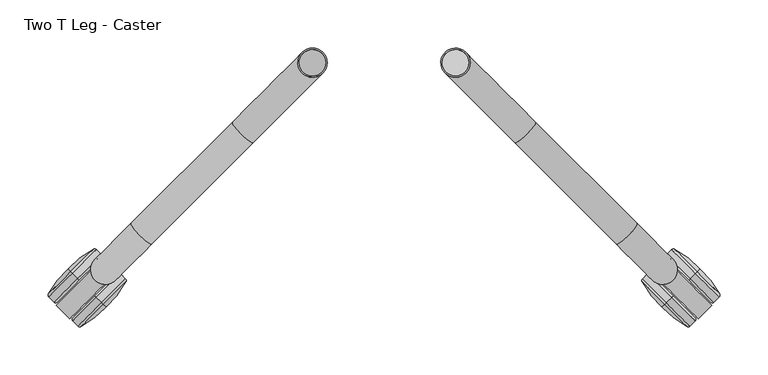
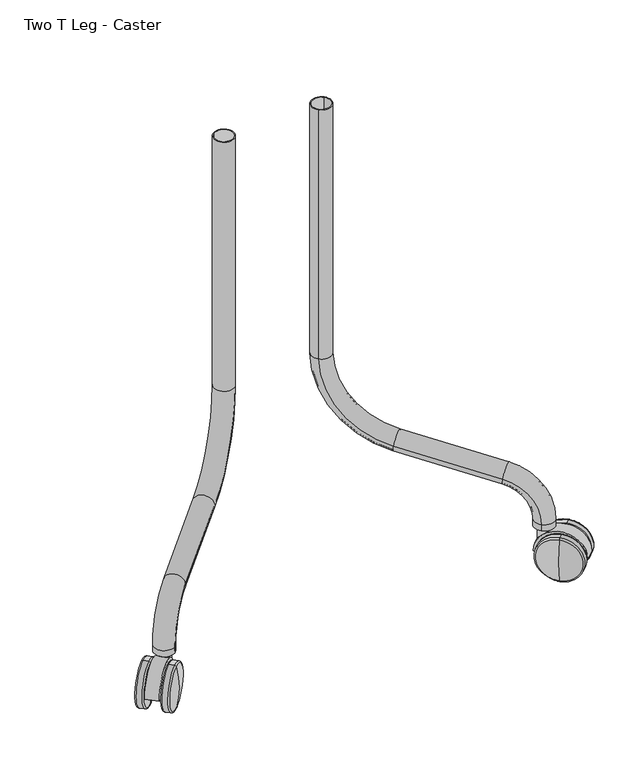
"""IFC4 building model written with IfcOpenShell, lengths in millimetres: furniture geometry, Steelcase - Groupwork - Table Leg - Two T : Two T Leg - Caster."""

from ifc_helpers import new_model, si_unit, point, frame, frame_2d, origin, place, context, project, spatial, polyline, circle_curve, ellipse_curve, trimmed, segment, composite_curve, outline, extrude, source, transform, mapped, element, save
from ifc_brep_helpers import plane_surface, cylinder_surface, revolved_surface, advanced_brep


def two_t_leg_caster_d90350da(model_context):
    return source(origin(), model_context, "Body", "SolidModel", [
        advanced_brep(
        [(715.6370027, -253.0571971, 2.2405885), (715.6370027, -253.0571971, 67.7519755), (715.6370027, -253.0571971, 34.996282), (714.1051669, -254.5890328, 0.0742455), (714.1051669, -254.5890328, 69.9183184), (708.5517446, -260.1424552, 0.0742455), (708.5517446, -260.1424552, 69.9183184), (706.7596961, -261.9345037, 1.9932216), (706.7596961, -261.9345037, 67.9993423), (703.9380457, -264.7561541, 34.996282)],
        [
            (0, 1, circle_curve(frame((715.6370027, -253.0571971, 34.996282), z_axis=(0.707106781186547, 0.7071067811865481, 0.0), x_axis=(0.0, 0.0, 1.0000000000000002)), 32.7556935)),
            (1, 2),
            (2, 0),
            (1, 0, circle_curve(frame((715.6370027, -253.0571971, 34.996282), z_axis=(0.707106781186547, 0.7071067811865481, 0.0), x_axis=(0.0, 0.0, 1.0000000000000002)), 32.7556935)),
            (3, 4, circle_curve(frame((714.1051669, -254.5890328, 34.996282), z_axis=(0.707106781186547, 0.7071067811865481, 0.0), x_axis=(0.0, 0.0, 1.0000000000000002)), 34.9220364)),
            (4, 1, circle_curve(frame((714.1051669, -254.5890328, 67.7519755), z_axis=(-0.7071067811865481, 0.707106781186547, 0.0), x_axis=(0.0, 0.0, 1.0000000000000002)), 2.1663429)),
            (0, 3, circle_curve(frame((714.1051669, -254.5890328, 2.2405885), z_axis=(-0.7071067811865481, 0.707106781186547, 0.0), x_axis=(0.0, 0.0, -1.0000000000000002)), 2.1663429)),
            (4, 3, circle_curve(frame((714.1051669, -254.5890328, 34.996282), z_axis=(0.707106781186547, 0.7071067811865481, 0.0), x_axis=(0.0, 0.0, 1.0000000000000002)), 34.9220364)),
            (5, 6, circle_curve(frame((708.5517446, -260.1424552, 34.996282), z_axis=(0.707106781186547, 0.7071067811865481, 0.0), x_axis=(0.0, 0.0, 1.0000000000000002)), 34.9220364)),
            (6, 4),
            (3, 5),
            (6, 5, circle_curve(frame((708.5517446, -260.1424552, 34.996282), z_axis=(0.707106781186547, 0.7071067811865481, 0.0), x_axis=(0.0, 0.0, 1.0000000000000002)), 34.9220364)),
            (7, 8, circle_curve(frame((706.7596961, -261.9345037, 34.996282), z_axis=(0.707106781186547, 0.7071067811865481, 0.0), x_axis=(0.0, 0.0, 1.0000000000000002)), 33.0030604)),
            (8, 6, circle_curve(frame((708.5517446, -260.1424552, 67.285314), z_axis=(-0.7071067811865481, 0.707106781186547, 0.0), x_axis=(0.0, 0.0, 1.0000000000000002)), 2.6330044)),
            (5, 7, circle_curve(frame((708.5517446, -260.1424552, 2.7072499), z_axis=(-0.7071067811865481, 0.707106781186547, 0.0), x_axis=(0.0, 0.0, -1.0000000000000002)), 2.6330044)),
            (8, 7, circle_curve(frame((706.7596961, -261.9345037, 34.996282), z_axis=(0.707106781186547, 0.7071067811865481, 0.0), x_axis=(0.0, 0.0, 1.0000000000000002)), 33.0030604)),
            (9, 8, circle_curve(frame((780.3707173, -188.3234824, 38.6695822), z_axis=(-0.7071067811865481, 0.707106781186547, 0.0), x_axis=(0.0, 0.0, 1.0000000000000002)), 108.1545178)),
            (7, 9, circle_curve(frame((780.3707173, -188.3234824, 31.3229818), z_axis=(-0.7071067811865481, 0.707106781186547, 0.0), x_axis=(0.0, 0.0, -1.0000000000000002)), 108.1545178)),
        ],
        [
            plane_surface(frame((715.6370027, -253.0571971, 34.996282), z_axis=(0.707106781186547, 0.7071067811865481, 0.0), x_axis=(0.0, 0.0, 1.0))),
            revolved_surface(trimmed(ellipse_curve(frame((714.1051669, -254.5890328, 67.7519755), z_axis=(0.7071067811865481, -0.707106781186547, 0.0), x_axis=(0.0, 0.0, 1.0000000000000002)), 2.1663429, 2.1663429), [point((715.6370027, -253.0571971, 67.7519755))], [point((714.1051669, -254.5890328, 69.9183184))], True, "CARTESIAN"), (705.1765702, -263.5176296, 34.996282), (-0.707106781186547, -0.7071067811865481, 0.0)),
            cylinder_surface(frame((705.1765702, -263.5176296, 34.996282), z_axis=(-0.707106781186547, -0.7071067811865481, 0.0), x_axis=(0.0, 0.0, 1.0000000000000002)), 34.9220364),
            revolved_surface(trimmed(ellipse_curve(frame((708.5517446, -260.1424552, 67.285314), z_axis=(0.7071067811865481, -0.707106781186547, 0.0), x_axis=(0.0, 0.0, 1.0000000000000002)), 2.6330044, 2.6330044), [point((708.5517446, -260.1424552, 69.9183184))], [point((706.7596961, -261.9345037, 67.9993423))], True, "CARTESIAN"), (705.1765702, -263.5176296, 34.996282), (-0.707106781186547, -0.7071067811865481, 0.0)),
            revolved_surface(trimmed(ellipse_curve(frame((780.3707173, -188.3234824, 38.6695822), z_axis=(0.7071067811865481, -0.707106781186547, 0.0), x_axis=(0.0, 0.0, 1.0000000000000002)), 108.1545178, 108.1545178), [point((706.7596961, -261.9345037, 67.9993423))], [point((703.9380457, -264.7561541, 34.996282))], True, "CARTESIAN"), (705.1765702, -263.5176296, 34.996282), (-0.707106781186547, -0.7071067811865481, 0.0)),
        ],
        [
            (0, [[1, 2, 3]]),
            (0, [[4, -3, -2]]),
            (1, [[5, 6, -1, 7]]),
            (1, [[8, -7, -4, -6]]),
            (2, [[9, 10, -5, 11]]),
            (2, [[12, -11, -8, -10]]),
            (3, [[13, 14, -9, 15]]),
            (3, [[16, -15, -12, -14]]),
            (4, [[17, -13, 18]]),
            (4, [[-18, -16, -17]]),
        ],
    ),
        advanced_brep(
        [(740.7533282, -227.9408716, 1.9932216), (740.7533282, -227.9408716, 67.9993423), (743.5749786, -225.1192212, 34.996282), (738.9612797, -229.7329201, 0.0742455), (738.9612797, -229.7329201, 69.9183184), (733.4078574, -235.2863424, 0.0742455), (733.4078574, -235.2863424, 69.9183184), (731.8760216, -236.8181782, 2.2405885), (731.8760216, -236.8181782, 67.7519755), (731.8760216, -236.8181782, 34.996282)],
        [
            (0, 1, circle_curve(frame((740.7533282, -227.9408716, 34.996282), z_axis=(0.707106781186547, 0.7071067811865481, 0.0), x_axis=(0.0, 0.0, 1.0000000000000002)), 33.0030604)),
            (1, 2, circle_curve(frame((667.142307, -301.5518928, 38.6695822), z_axis=(-0.7071067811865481, 0.707106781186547, 0.0), x_axis=(0.0, 0.0, 1.0000000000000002)), 108.1545178)),
            (2, 0, circle_curve(frame((667.142307, -301.5518928, 31.3229818), z_axis=(-0.7071067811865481, 0.707106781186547, 0.0), x_axis=(0.0, 0.0, -1.0000000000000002)), 108.1545178)),
            (1, 0, circle_curve(frame((740.7533282, -227.9408716, 34.996282), z_axis=(0.707106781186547, 0.7071067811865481, 0.0), x_axis=(0.0, 0.0, 1.0000000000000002)), 33.0030604)),
            (3, 4, circle_curve(frame((738.9612797, -229.7329201, 34.996282), z_axis=(0.707106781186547, 0.7071067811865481, 0.0), x_axis=(0.0, 0.0, 1.0000000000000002)), 34.9220364)),
            (4, 1, circle_curve(frame((738.9612797, -229.7329201, 67.285314), z_axis=(-0.7071067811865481, 0.707106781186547, 0.0), x_axis=(0.0, 0.0, 1.0000000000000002)), 2.6330044)),
            (0, 3, circle_curve(frame((738.9612797, -229.7329201, 2.7072499), z_axis=(-0.7071067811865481, 0.707106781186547, 0.0), x_axis=(0.0, 0.0, -1.0000000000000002)), 2.6330044)),
            (4, 3, circle_curve(frame((738.9612797, -229.7329201, 34.996282), z_axis=(0.707106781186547, 0.7071067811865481, 0.0), x_axis=(0.0, 0.0, 1.0000000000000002)), 34.9220364)),
            (5, 6, circle_curve(frame((733.4078574, -235.2863424, 34.996282), z_axis=(0.707106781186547, 0.7071067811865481, 0.0), x_axis=(0.0, 0.0, 1.0000000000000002)), 34.9220364)),
            (6, 4),
            (3, 5),
            (6, 5, circle_curve(frame((733.4078574, -235.2863424, 34.996282), z_axis=(0.707106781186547, 0.7071067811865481, 0.0), x_axis=(0.0, 0.0, 1.0000000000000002)), 34.9220364)),
            (7, 8, circle_curve(frame((731.8760216, -236.8181782, 34.996282), z_axis=(0.707106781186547, 0.7071067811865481, 0.0), x_axis=(0.0, 0.0, 1.0000000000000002)), 32.7556935)),
            (8, 6, circle_curve(frame((733.4078574, -235.2863424, 67.7519755), z_axis=(-0.7071067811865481, 0.707106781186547, 0.0), x_axis=(0.0, 0.0, 1.0000000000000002)), 2.1663429)),
            (5, 7, circle_curve(frame((733.4078574, -235.2863424, 2.2405885), z_axis=(-0.7071067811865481, 0.707106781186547, 0.0), x_axis=(0.0, 0.0, -1.0000000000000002)), 2.1663429)),
            (8, 7, circle_curve(frame((731.8760216, -236.8181782, 34.996282), z_axis=(0.707106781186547, 0.7071067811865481, 0.0), x_axis=(0.0, 0.0, 1.0000000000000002)), 32.7556935)),
            (9, 8),
            (7, 9),
        ],
        [
            revolved_surface(trimmed(ellipse_curve(frame((667.142307, -301.5518928, 38.6695822), z_axis=(0.7071067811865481, -0.707106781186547, 0.0), x_axis=(0.0, 0.0, 1.0000000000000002)), 108.1545178, 108.1545178), [point((743.5749786, -225.1192212, 34.996282))], [point((740.7533282, -227.9408716, 67.9993423))], True, "CARTESIAN"), (705.1765702, -263.5176296, 34.996282), (-0.707106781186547, -0.7071067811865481, 0.0)),
            revolved_surface(trimmed(ellipse_curve(frame((738.9612797, -229.7329201, 67.285314), z_axis=(0.7071067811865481, -0.707106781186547, 0.0), x_axis=(0.0, 0.0, 1.0000000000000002)), 2.6330044, 2.6330044), [point((740.7533282, -227.9408716, 67.9993423))], [point((738.9612797, -229.7329201, 69.9183184))], True, "CARTESIAN"), (705.1765702, -263.5176296, 34.996282), (-0.707106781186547, -0.7071067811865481, 0.0)),
            cylinder_surface(frame((705.1765702, -263.5176296, 34.996282), z_axis=(-0.707106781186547, -0.7071067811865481, 0.0), x_axis=(0.0, 0.0, 1.0000000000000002)), 34.9220364),
            revolved_surface(trimmed(ellipse_curve(frame((733.4078574, -235.2863424, 67.7519755), z_axis=(0.7071067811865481, -0.707106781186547, 0.0), x_axis=(0.0, 0.0, 1.0000000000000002)), 2.1663429, 2.1663429), [point((733.4078574, -235.2863424, 69.9183184))], [point((731.8760216, -236.8181782, 67.7519755))], True, "CARTESIAN"), (705.1765702, -263.5176296, 34.996282), (-0.707106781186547, -0.7071067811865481, 0.0)),
            plane_surface(frame((731.8760216, -236.8181782, 34.996282), z_axis=(-0.707106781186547, -0.7071067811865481, 0.0), x_axis=(0.0, 0.0, 1.0))),
        ],
        [
            (0, [[1, 2, 3]]),
            (0, [[4, -3, -2]]),
            (1, [[5, 6, -1, 7]]),
            (1, [[8, -7, -4, -6]]),
            (2, [[9, 10, -5, 11]]),
            (2, [[12, -11, -8, -10]]),
            (3, [[13, 14, -9, 15]]),
            (3, [[16, -15, -12, -14]]),
            (4, [[17, -13, 18]]),
            (4, [[-18, -16, -17]]),
        ],
    ),
        extrude(outline(composite_curve([segment(trimmed(circle_curve(frame_2d((0.0, -37.5031)), 37.5031), [point((0.0, 0.0))], [point((0.0, -75.0062))], False, "CARTESIAN"), True, "CONTINUOUS"), segment(polyline([(0.0, -75.0062), (0.0, 0.0)]), True, "CONTINUOUS")], self_intersect=False)), frame((741.9150287, -277.0308459, 33.5852125), z_axis=(0.7071067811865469, 0.7071067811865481, 0.0), x_axis=(0.0, 0.0, 1.0)), (0.0, 0.0, 1.0), 19.685),
        advanced_brep(
        [(712.3538213, -233.5349968, 93.5546125), (698.428117, -219.6092925, 93.5546125), (705.3909692, -226.5721446, 93.5546125), (712.3538213, -233.5349968, 42.7546125), (698.428117, -219.6092925, 42.7546125), (705.3909692, -226.5721446, 42.7546125)],
        [
            (0, 1, circle_curve(frame((705.3909692, -226.5721446, 93.5546125), z_axis=(0.0, 0.0, 1.0), x_axis=(-0.7071067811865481, 0.707106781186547, 0.0)), 9.8469599)),
            (1, 2),
            (2, 0),
            (1, 0, circle_curve(frame((705.3909692, -226.5721446, 93.5546125), z_axis=(0.0, 0.0, 1.0), x_axis=(-0.7071067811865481, 0.707106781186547, 0.0)), 9.8469599)),
            (3, 4, circle_curve(frame((705.3909692, -226.5721446, 42.7546125), z_axis=(0.0, 0.0, 1.0), x_axis=(-0.7071067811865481, 0.707106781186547, 0.0)), 9.8469599)),
            (4, 1),
            (0, 3),
            (4, 3, circle_curve(frame((705.3909692, -226.5721446, 42.7546125), z_axis=(0.0, 0.0, 1.0), x_axis=(-0.7071067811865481, 0.707106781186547, 0.0)), 9.8469599)),
            (5, 4),
            (3, 5),
        ],
        [
            plane_surface(frame((705.3909692, -226.5721446, 93.5546125), z_axis=(0.0, 0.0, 1.0000000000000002), x_axis=(-0.7071067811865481, 0.707106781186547, 0.0))),
            cylinder_surface(frame((705.3909692, -226.5721446, 92.8785885), z_axis=(0.0, 0.0, -1.0), x_axis=(-0.7071067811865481, 0.707106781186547, 0.0)), 9.8469599),
            plane_surface(frame((705.3909692, -226.5721446, 42.7546125), z_axis=(0.0, 0.0, -1.0000000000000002), x_axis=(-0.7071067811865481, 0.707106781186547, 0.0))),
        ],
        [
            (0, [[1, 2, 3]]),
            (0, [[4, -3, -2]]),
            (1, [[5, 6, -1, 7]]),
            (1, [[8, -7, -4, -6]]),
            (2, [[9, -5, 10]]),
            (2, [[-10, -8, -9]]),
        ],
    ),
        advanced_brep(
        [(500.3714392, 0.0, 694.944), (478.8188245, -21.5526147, 694.944), (499.2919917, -1.0794475, 694.944), (479.898272, -20.4731672, 694.944), (500.3714392, 0.0, 293.6506074), (478.8188245, -21.5526147, 293.6506074), (499.2919917, -1.0794475, 293.6506074), (479.898272, -20.4731672, 293.6506074), (551.1243982, -93.8581883, 171.7872206), (572.6770128, -72.3055736, 171.7872206), (552.2038456, -92.7787408, 171.7872206), (571.5975654, -73.3850211, 171.7872206), (677.9858071, -177.6143679, 145.5269977), (656.4331924, -199.1669826, 145.5269977), (676.9063596, -178.6938153, 145.5269977), (657.5126399, -198.0875351, 145.5269977), (694.165649, -236.8994392, 81.9329382), (715.7182637, -215.3468245, 81.9329382), (695.2450965, -235.8199917, 81.9329382), (714.6388162, -216.426272, 81.9329382), (715.7182637, -215.3468245, 71.9077843), (694.165649, -236.8994392, 71.9077843), (714.6388162, -216.426272, 71.9077843), (695.2450965, -235.8199917, 71.9077843)],
        [
            (0, 1, circle_curve(frame((489.5951319, -10.7763073, 694.944), z_axis=(0.0, 0.0, 1.0), x_axis=(-0.707106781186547, -0.7071067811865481, 0.0)), 15.24)),
            (1, 0, circle_curve(frame((489.5951319, -10.7763073, 694.944), z_axis=(0.0, 0.0, 1.0), x_axis=(-0.707106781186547, -0.7071067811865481, 0.0)), 15.24)),
            (2, 3, circle_curve(frame((489.5951319, -10.7763073, 694.944), z_axis=(0.0, 0.0, -1.0), x_axis=(-0.707106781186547, -0.7071067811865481, 0.0)), 13.7134307)),
            (3, 2, circle_curve(frame((489.5951319, -10.7763073, 694.944), z_axis=(0.0, 0.0, -1.0), x_axis=(-0.707106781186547, -0.7071067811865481, 0.0)), 13.7134307)),
            (0, 4),
            (4, 5, circle_curve(frame((489.5951319, -10.7763073, 293.6506074), z_axis=(0.0, 0.0, 1.0), x_axis=(-0.707106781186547, -0.7071067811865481, 0.0)), 15.24)),
            (5, 1),
            (5, 4, circle_curve(frame((489.5951319, -10.7763073, 293.6506074), z_axis=(0.0, 0.0, 1.0), x_axis=(-0.707106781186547, -0.7071067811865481, 0.0)), 15.24)),
            (2, 6),
            (6, 7, circle_curve(frame((489.5951319, -10.7763073, 293.6506074), z_axis=(0.0, 0.0, -1.0), x_axis=(-0.707106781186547, -0.7071067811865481, 0.0)), 13.7134307)),
            (7, 3),
            (7, 6, circle_curve(frame((489.5951319, -10.7763073, 293.6506074), z_axis=(0.0, 0.0, -1.0), x_axis=(-0.707106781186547, -0.7071067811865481, 0.0)), 13.7134307)),
            (8, 5, circle_curve(frame((566.3185694, -109.0523596, 293.6506074), z_axis=(0.707106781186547, 0.7071067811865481, 0.0), x_axis=(-0.7071067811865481, 0.707106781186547, 0.0)), 123.7433259)),
            (4, 9, circle_curve(frame((587.8711841, -87.4997449, 293.6506074), z_axis=(-0.707106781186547, -0.7071067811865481, 0.0), x_axis=(-0.7071067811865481, 0.707106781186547, 0.0)), 123.7433259)),
            (9, 8, circle_curve(frame((561.9007055, -83.081881, 171.7872206), z_axis=(-0.696364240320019, 0.6963642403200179, 0.17364817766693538), x_axis=(-0.707106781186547, -0.7071067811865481, 0.0)), 15.24)),
            (8, 9, circle_curve(frame((561.9007055, -83.081881, 171.7872206), z_axis=(-0.696364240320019, 0.6963642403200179, 0.17364817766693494), x_axis=(-0.707106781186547, -0.7071067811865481, 0.0)), 15.24)),
            (10, 7, circle_curve(frame((567.3980169, -107.9729121, 293.6506074), z_axis=(0.707106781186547, 0.7071067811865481, 0.0), x_axis=(-0.7071067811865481, 0.707106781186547, 0.0)), 123.7433259)),
            (6, 11, circle_curve(frame((586.7917366, -88.5791923, 293.6506074), z_axis=(-0.707106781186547, -0.7071067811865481, 0.0), x_axis=(-0.7071067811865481, 0.707106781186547, 0.0)), 123.7433259)),
            (11, 10, circle_curve(frame((561.9007055, -83.081881, 171.7872206), z_axis=(0.696364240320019, -0.6963642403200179, -0.17364817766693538), x_axis=(-0.707106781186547, -0.7071067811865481, 0.0)), 13.7134307)),
            (10, 11, circle_curve(frame((561.9007055, -83.081881, 171.7872206), z_axis=(0.696364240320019, -0.6963642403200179, -0.17364817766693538), x_axis=(-0.707106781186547, -0.7071067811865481, 0.0)), 13.7134307)),
            (9, 12),
            (12, 13, circle_curve(frame((667.2094997, -188.3906752, 145.5269977), z_axis=(-0.6963642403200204, 0.696364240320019, 0.17364817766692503), x_axis=(-0.7071067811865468, -0.7071067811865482, 0.0)), 15.24)),
            (13, 8),
            (13, 12, circle_curve(frame((667.2094997, -188.3906752, 145.5269977), z_axis=(-0.6963642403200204, 0.696364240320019, 0.17364817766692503), x_axis=(-0.7071067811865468, -0.7071067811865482, 0.0)), 15.24)),
            (11, 14),
            (14, 15, circle_curve(frame((667.2094997, -188.3906752, 145.5269977), z_axis=(0.6963642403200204, -0.696364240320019, -0.17364817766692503), x_axis=(-0.7071067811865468, -0.7071067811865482, 0.0)), 13.7134307)),
            (15, 10),
            (15, 14, circle_curve(frame((667.2094997, -188.3906752, 145.5269977), z_axis=(0.6963642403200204, -0.696364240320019, -0.17364817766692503), x_axis=(-0.7071067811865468, -0.7071067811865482, 0.0)), 13.7134307)),
            (16, 13, circle_curve(frame((648.5041576, -191.2379478, 81.9329382), z_axis=(-0.707106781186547, -0.7071067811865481, 0.0), x_axis=(0.12278780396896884, -0.12278780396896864, 0.9848077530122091)), 64.5751004)),
            (12, 17, circle_curve(frame((670.0567723, -169.6853331, 81.9329382), z_axis=(0.707106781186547, 0.7071067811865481, 0.0), x_axis=(0.12278780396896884, -0.12278780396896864, 0.9848077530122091)), 64.5751004)),
            (17, 16, circle_curve(frame((704.9419564, -226.1231318, 81.9329382), z_axis=(0.0, 0.0, 1.0), x_axis=(-0.707106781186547, -0.7071067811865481, 0.0)), 15.24)),
            (16, 17, circle_curve(frame((704.9419564, -226.1231318, 81.9329382), z_axis=(0.0, 0.0, 1.0), x_axis=(-0.707106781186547, -0.7071067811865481, 0.0)), 15.24)),
            (18, 15, circle_curve(frame((649.5836051, -190.1585003, 81.9329382), z_axis=(-0.707106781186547, -0.7071067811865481, 0.0), x_axis=(0.12278780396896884, -0.12278780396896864, 0.9848077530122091)), 64.5751004)),
            (14, 19, circle_curve(frame((668.9773248, -170.7647806, 81.9329382), z_axis=(0.707106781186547, 0.7071067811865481, 0.0), x_axis=(0.12278780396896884, -0.12278780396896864, 0.9848077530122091)), 64.5751004)),
            (19, 18, circle_curve(frame((704.9419564, -226.1231318, 81.9329382), z_axis=(0.0, 0.0, -1.0), x_axis=(-0.707106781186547, -0.7071067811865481, 0.0)), 13.7134307)),
            (18, 19, circle_curve(frame((704.9419564, -226.1231318, 81.9329382), z_axis=(0.0, 0.0, -1.0), x_axis=(-0.707106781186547, -0.7071067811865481, 0.0)), 13.7134307)),
            (20, 21, circle_curve(frame((704.9419564, -226.1231318, 71.9077843), z_axis=(0.0, 0.0, -1.0), x_axis=(-0.707106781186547, -0.707106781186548, 0.0)), 15.24)),
            (21, 20, circle_curve(frame((704.9419564, -226.1231318, 71.9077843), z_axis=(0.0, 0.0, -1.0), x_axis=(-0.707106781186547, -0.707106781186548, 0.0)), 15.24)),
            (22, 23, circle_curve(frame((704.9419564, -226.1231318, 71.9077843), z_axis=(0.0, 0.0, 1.0), x_axis=(-0.707106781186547, -0.707106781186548, 0.0)), 13.7134307)),
            (23, 22, circle_curve(frame((704.9419564, -226.1231318, 71.9077843), z_axis=(0.0, 0.0, 1.0), x_axis=(-0.707106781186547, -0.707106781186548, 0.0)), 13.7134307)),
            (17, 20),
            (21, 16),
            (19, 22),
            (23, 18),
        ],
        [
            plane_surface(frame((500.7626997, -21.9438752, 694.944), z_axis=(0.0, 0.0, 1.0000000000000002), x_axis=(-0.707106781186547, -0.7071067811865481, 0.0))),
            cylinder_surface(frame((489.5951319, -10.7763073, 694.944), z_axis=(0.0, 0.0, 1.0000000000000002), x_axis=(-0.707106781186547, -0.7071067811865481, 0.0)), 15.24),
            revolved_surface(polyline([(479.89827205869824, -20.47316714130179, 293.6506073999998), (479.89827205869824, -20.47316714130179, 694.944)]), (489.5951319, -10.7763073, 694.944), (0.0, 0.0, -1.0000000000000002)),
            revolved_surface(trimmed(ellipse_curve(frame((489.5951319, -10.7763073, 293.6506074), z_axis=(0.0, 0.0, 1.0000000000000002), x_axis=(-0.707106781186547, -0.7071067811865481, 0.0)), 15.24, 15.24), [point((500.3714392, 0.0, 293.6506074))], [point((478.8188245, -21.5526147, 293.6506074))], True, "CARTESIAN"), (577.0948767, -98.2760522, 293.6506074), (-0.707106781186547, -0.7071067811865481, 0.0)),
            revolved_surface(trimmed(ellipse_curve(frame((489.5951319, -10.7763073, 293.6506074), z_axis=(0.0, 0.0, 1.0000000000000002), x_axis=(-0.707106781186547, -0.7071067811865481, 0.0)), 15.24, 15.24), [point((478.8188245, -21.5526147, 293.6506074))], [point((500.3714392, 0.0, 293.6506074))], True, "CARTESIAN"), (577.0948767, -98.2760522, 293.6506074), (-0.707106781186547, -0.7071067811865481, 0.0)),
            revolved_surface(trimmed(ellipse_curve(frame((489.5951319, -10.7763073, 293.6506074), z_axis=(0.0, 0.0, -1.0000000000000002), x_axis=(-0.707106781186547, -0.7071067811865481, 0.0)), 13.7134307, 13.7134307), [point((499.2919917, -1.0794475, 293.6506074))], [point((479.898272, -20.4731672, 293.6506074))], True, "CARTESIAN"), (577.0948767, -98.2760522, 293.6506074), (-0.707106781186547, -0.7071067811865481, 0.0)),
            revolved_surface(trimmed(ellipse_curve(frame((489.5951319, -10.7763073, 293.6506074), z_axis=(0.0, 0.0, -1.0000000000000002), x_axis=(-0.707106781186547, -0.7071067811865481, 0.0)), 13.7134307, 13.7134307), [point((479.898272, -20.4731672, 293.6506074))], [point((499.2919917, -1.0794475, 293.6506074))], True, "CARTESIAN"), (577.0948767, -98.2760522, 293.6506074), (-0.707106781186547, -0.7071067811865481, 0.0)),
            cylinder_surface(frame((561.9007055, -83.081881, 171.7872206), z_axis=(-0.6963642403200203, 0.6963642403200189, 0.173648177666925), x_axis=(-0.7071067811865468, -0.7071067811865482, 0.0)), 15.24),
            revolved_surface(polyline([(657.5126399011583, -198.08753508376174, 145.52699763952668), (552.2038456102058, -92.77874079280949, 171.78722061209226)]), (561.9007055, -83.081881, 171.7872206), (0.6963642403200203, -0.6963642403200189, -0.173648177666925)),
            revolved_surface(trimmed(ellipse_curve(frame((667.2094997, -188.3906752, 145.5269977), z_axis=(-0.6963642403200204, 0.6963642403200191, 0.17364817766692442), x_axis=(-0.7071067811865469, -0.7071067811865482, 0.0)), 15.24, 15.24), [point((677.9858071, -177.6143679, 145.5269977))], [point((656.4331924, -199.1669826, 145.5269977))], True, "CARTESIAN"), (659.280465, -180.4616404, 81.9329382), (0.707106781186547, 0.7071067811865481, 0.0)),
            revolved_surface(trimmed(ellipse_curve(frame((667.2094997, -188.3906752, 145.5269977), z_axis=(-0.6963642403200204, 0.6963642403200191, 0.17364817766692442), x_axis=(-0.7071067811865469, -0.7071067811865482, 0.0)), 15.24, 15.24), [point((656.4331924, -199.1669826, 145.5269977))], [point((677.9858071, -177.6143679, 145.5269977))], True, "CARTESIAN"), (659.280465, -180.4616404, 81.9329382), (0.707106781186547, 0.7071067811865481, 0.0)),
            revolved_surface(trimmed(ellipse_curve(frame((667.2094997, -188.3906752, 145.5269977), z_axis=(0.6963642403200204, -0.6963642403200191, -0.17364817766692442), x_axis=(-0.7071067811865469, -0.7071067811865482, 0.0)), 13.7134307, 13.7134307), [point((676.9063596, -178.6938153, 145.5269977))], [point((657.5126399, -198.0875351, 145.5269977))], True, "CARTESIAN"), (659.280465, -180.4616404, 81.9329382), (0.707106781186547, 0.7071067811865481, 0.0)),
            revolved_surface(trimmed(ellipse_curve(frame((667.2094997, -188.3906752, 145.5269977), z_axis=(0.6963642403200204, -0.6963642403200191, -0.17364817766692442), x_axis=(-0.7071067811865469, -0.7071067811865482, 0.0)), 13.7134307, 13.7134307), [point((657.5126399, -198.0875351, 145.5269977))], [point((676.9063596, -178.6938153, 145.5269977))], True, "CARTESIAN"), (659.280465, -180.4616404, 81.9329382), (0.707106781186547, 0.7071067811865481, 0.0)),
            plane_surface(frame((716.1095242, -237.2906997, 71.9077843), z_axis=(0.0, 0.0, -1.0), x_axis=(-0.707106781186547, -0.7071067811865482, 0.0))),
            cylinder_surface(frame((704.9419564, -226.1231318, 81.9329382), z_axis=(0.0, 0.0, 1.0), x_axis=(-0.707106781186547, -0.707106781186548, 0.0)), 15.24),
            revolved_surface(polyline([(695.2450965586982, -235.8199916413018, 71.9077843), (695.2450965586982, -235.8199916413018, 81.9329382)]), (704.9419564, -226.1231318, 81.9329382), (0.0, 0.0, -1.0)),
        ],
        [
            (0, [[1, 2], [3, 4]]),
            (1, [[-1, 5, 6, 7]]),
            (1, [[-2, -7, 8, -5]]),
            (2, [[-3, 9, 10, 11]]),
            (2, [[-4, -11, 12, -9]]),
            (3, [[13, -6, 14, 15]]),
            (4, [[-14, -8, -13, 16]]),
            (5, [[17, -10, 18, 19]]),
            (6, [[-18, -12, -17, 20]]),
            (7, [[-15, 21, 22, 23]]),
            (7, [[-16, -23, 24, -21]]),
            (8, [[-19, 25, 26, 27]]),
            (8, [[-20, -27, 28, -25]]),
            (9, [[29, -22, 30, 31]]),
            (10, [[-30, -24, -29, 32]]),
            (11, [[33, -26, 34, 35]]),
            (12, [[-34, -28, -33, 36]]),
            (13, [[37, 38], [39, 40]]),
            (14, [[-31, 41, -38, 42]]),
            (14, [[-32, -42, -37, -41]]),
            (15, [[-35, 43, -40, 44]]),
            (15, [[-36, -44, -39, -43]]),
        ],
    ),
        advanced_brep(
        [(98.7616275, -236.8181782, 2.2405885), (98.7616275, -236.8181782, 67.7519755), (98.7616275, -236.8181782, 34.996282), (97.2297917, -235.2863424, 0.0742455), (97.2297917, -235.2863424, 69.9183184), (91.6763694, -229.7329201, 0.0742455), (91.6763694, -229.7329201, 69.9183184), (89.8843209, -227.9408716, 1.9932216), (89.8843209, -227.9408716, 67.9993423), (87.0626705, -225.1192212, 34.996282)],
        [
            (0, 1, circle_curve(frame((98.7616275, -236.8181782, 34.996282), z_axis=(0.707106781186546, -0.707106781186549, 0.0), x_axis=(0.0, 0.0, 1.0)), 32.7556935)),
            (1, 2),
            (2, 0),
            (1, 0, circle_curve(frame((98.7616275, -236.8181782, 34.996282), z_axis=(0.707106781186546, -0.707106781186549, 0.0), x_axis=(0.0, 0.0, 1.0)), 32.7556935)),
            (3, 4, circle_curve(frame((97.2297917, -235.2863424, 34.996282), z_axis=(0.707106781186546, -0.707106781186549, 0.0), x_axis=(0.0, 0.0, 1.0)), 34.9220364)),
            (4, 1, circle_curve(frame((97.2297917, -235.2863424, 67.7519755), z_axis=(0.707106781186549, 0.707106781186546, 0.0), x_axis=(0.0, 0.0, 1.0)), 2.1663429)),
            (0, 3, circle_curve(frame((97.2297917, -235.2863424, 2.2405885), z_axis=(0.707106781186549, 0.707106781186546, 0.0), x_axis=(0.0, 0.0, -1.0)), 2.1663429)),
            (4, 3, circle_curve(frame((97.2297917, -235.2863424, 34.996282), z_axis=(0.707106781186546, -0.707106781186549, 0.0), x_axis=(0.0, 0.0, 1.0)), 34.9220364)),
            (5, 6, circle_curve(frame((91.6763694, -229.7329201, 34.996282), z_axis=(0.707106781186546, -0.707106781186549, 0.0), x_axis=(0.0, 0.0, 1.0)), 34.9220364)),
            (6, 4),
            (3, 5),
            (6, 5, circle_curve(frame((91.6763694, -229.7329201, 34.996282), z_axis=(0.707106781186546, -0.707106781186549, 0.0), x_axis=(0.0, 0.0, 1.0)), 34.9220364)),
            (7, 8, circle_curve(frame((89.8843209, -227.9408716, 34.996282), z_axis=(0.707106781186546, -0.707106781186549, 0.0), x_axis=(0.0, 0.0, 1.0)), 33.0030604)),
            (8, 6, circle_curve(frame((91.6763694, -229.7329201, 67.285314), z_axis=(0.707106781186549, 0.707106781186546, 0.0), x_axis=(0.0, 0.0, 1.0)), 2.6330044)),
            (5, 7, circle_curve(frame((91.6763694, -229.7329201, 2.7072499), z_axis=(0.707106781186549, 0.707106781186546, 0.0), x_axis=(0.0, 0.0, -1.0)), 2.6330044)),
            (8, 7, circle_curve(frame((89.8843209, -227.9408716, 34.996282), z_axis=(0.707106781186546, -0.707106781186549, 0.0), x_axis=(0.0, 0.0, 1.0)), 33.0030604)),
            (9, 8, circle_curve(frame((163.4953421, -301.5518928, 38.6695822), z_axis=(0.707106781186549, 0.707106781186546, 0.0), x_axis=(0.0, 0.0, 1.0)), 108.1545178)),
            (7, 9, circle_curve(frame((163.4953421, -301.5518928, 31.3229818), z_axis=(0.707106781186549, 0.707106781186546, 0.0), x_axis=(0.0, 0.0, -1.0)), 108.1545178)),
        ],
        [
            plane_surface(frame((98.7616275, -236.8181782, 34.996282), z_axis=(0.707106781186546, -0.707106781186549, 0.0), x_axis=(0.0, 0.0, 1.0))),
            revolved_surface(trimmed(ellipse_curve(frame((97.2297917, -235.2863424, 67.7519755), z_axis=(-0.707106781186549, -0.707106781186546, 0.0), x_axis=(0.0, 0.0, 1.0)), 2.1663429, 2.1663429), [point((98.7616275, -236.8181782, 67.7519755))], [point((97.2297917, -235.2863424, 69.9183184))], True, "CARTESIAN"), (88.301195, -226.3577457, 34.996282), (-0.707106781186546, 0.707106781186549, 0.0)),
            cylinder_surface(frame((88.301195, -226.3577457, 34.996282), z_axis=(-0.707106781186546, 0.707106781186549, 0.0), x_axis=(0.0, 0.0, 1.0)), 34.9220364),
            revolved_surface(trimmed(ellipse_curve(frame((91.6763694, -229.7329201, 67.285314), z_axis=(-0.707106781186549, -0.707106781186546, 0.0), x_axis=(0.0, 0.0, 1.0)), 2.6330044, 2.6330044), [point((91.6763694, -229.7329201, 69.9183184))], [point((89.8843209, -227.9408716, 67.9993423))], True, "CARTESIAN"), (88.301195, -226.3577457, 34.996282), (-0.707106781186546, 0.707106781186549, 0.0)),
            revolved_surface(trimmed(ellipse_curve(frame((163.4953421, -301.5518928, 38.6695822), z_axis=(-0.707106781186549, -0.707106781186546, 0.0), x_axis=(0.0, 0.0, 1.0)), 108.1545178, 108.1545178), [point((89.8843209, -227.9408716, 67.9993423))], [point((87.0626705, -225.1192212, 34.996282))], True, "CARTESIAN"), (88.301195, -226.3577457, 34.996282), (-0.707106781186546, 0.707106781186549, 0.0)),
        ],
        [
            (0, [[1, 2, 3]]),
            (0, [[4, -3, -2]]),
            (1, [[5, 6, -1, 7]]),
            (1, [[8, -7, -4, -6]]),
            (2, [[9, 10, -5, 11]]),
            (2, [[12, -11, -8, -10]]),
            (3, [[13, 14, -9, 15]]),
            (3, [[16, -15, -12, -14]]),
            (4, [[17, -13, 18]]),
            (4, [[-18, -16, -17]]),
        ],
    ),
        advanced_brep(
        [(123.8779529, -261.9345037, 1.9932216), (123.8779529, -261.9345037, 67.9993423), (126.6996034, -264.7561541, 34.996282), (122.0859045, -260.1424552, 0.0742455), (122.0859045, -260.1424552, 69.9183184), (116.5324821, -254.5890328, 0.0742455), (116.5324821, -254.5890328, 69.9183184), (115.0006463, -253.0571971, 2.2405885), (115.0006463, -253.0571971, 67.7519755), (115.0006463, -253.0571971, 34.996282)],
        [
            (0, 1, circle_curve(frame((123.8779529, -261.9345037, 34.996282), z_axis=(0.707106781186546, -0.707106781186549, 0.0), x_axis=(0.0, 0.0, 1.0)), 33.0030604)),
            (1, 2, circle_curve(frame((50.2669317, -188.3234824, 38.6695822), z_axis=(0.707106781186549, 0.707106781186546, 0.0), x_axis=(0.0, 0.0, 1.0)), 108.1545178)),
            (2, 0, circle_curve(frame((50.2669317, -188.3234824, 31.3229818), z_axis=(0.707106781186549, 0.707106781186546, 0.0), x_axis=(0.0, 0.0, -1.0)), 108.1545178)),
            (1, 0, circle_curve(frame((123.8779529, -261.9345037, 34.996282), z_axis=(0.707106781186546, -0.707106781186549, 0.0), x_axis=(0.0, 0.0, 1.0)), 33.0030604)),
            (3, 4, circle_curve(frame((122.0859045, -260.1424552, 34.996282), z_axis=(0.707106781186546, -0.707106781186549, 0.0), x_axis=(0.0, 0.0, 1.0)), 34.9220364)),
            (4, 1, circle_curve(frame((122.0859045, -260.1424552, 67.285314), z_axis=(0.707106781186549, 0.707106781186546, 0.0), x_axis=(0.0, 0.0, 1.0)), 2.6330044)),
            (0, 3, circle_curve(frame((122.0859045, -260.1424552, 2.7072499), z_axis=(0.707106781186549, 0.707106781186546, 0.0), x_axis=(0.0, 0.0, -1.0)), 2.6330044)),
            (4, 3, circle_curve(frame((122.0859045, -260.1424552, 34.996282), z_axis=(0.707106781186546, -0.707106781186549, 0.0), x_axis=(0.0, 0.0, 1.0)), 34.9220364)),
            (5, 6, circle_curve(frame((116.5324821, -254.5890328, 34.996282), z_axis=(0.707106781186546, -0.707106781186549, 0.0), x_axis=(0.0, 0.0, 1.0)), 34.9220364)),
            (6, 4),
            (3, 5),
            (6, 5, circle_curve(frame((116.5324821, -254.5890328, 34.996282), z_axis=(0.707106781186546, -0.707106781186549, 0.0), x_axis=(0.0, 0.0, 1.0)), 34.9220364)),
            (7, 8, circle_curve(frame((115.0006463, -253.0571971, 34.996282), z_axis=(0.707106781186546, -0.707106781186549, 0.0), x_axis=(0.0, 0.0, 1.0)), 32.7556935)),
            (8, 6, circle_curve(frame((116.5324821, -254.5890328, 67.7519755), z_axis=(0.707106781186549, 0.707106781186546, 0.0), x_axis=(0.0, 0.0, 1.0)), 2.1663429)),
            (5, 7, circle_curve(frame((116.5324821, -254.5890328, 2.2405885), z_axis=(0.707106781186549, 0.707106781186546, 0.0), x_axis=(0.0, 0.0, -1.0)), 2.1663429)),
            (8, 7, circle_curve(frame((115.0006463, -253.0571971, 34.996282), z_axis=(0.707106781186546, -0.707106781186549, 0.0), x_axis=(0.0, 0.0, 1.0)), 32.7556935)),
            (9, 8),
            (7, 9),
        ],
        [
            revolved_surface(trimmed(ellipse_curve(frame((50.2669317, -188.3234824, 38.6695822), z_axis=(-0.707106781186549, -0.707106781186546, 0.0), x_axis=(0.0, 0.0, 1.0)), 108.1545178, 108.1545178), [point((126.6996034, -264.7561541, 34.996282))], [point((123.8779529, -261.9345037, 67.9993423))], True, "CARTESIAN"), (88.301195, -226.3577457, 34.996282), (-0.707106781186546, 0.707106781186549, 0.0)),
            revolved_surface(trimmed(ellipse_curve(frame((122.0859045, -260.1424552, 67.285314), z_axis=(-0.707106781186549, -0.707106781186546, 0.0), x_axis=(0.0, 0.0, 1.0)), 2.6330044, 2.6330044), [point((123.8779529, -261.9345037, 67.9993423))], [point((122.0859045, -260.1424552, 69.9183184))], True, "CARTESIAN"), (88.301195, -226.3577457, 34.996282), (-0.707106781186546, 0.707106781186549, 0.0)),
            cylinder_surface(frame((88.301195, -226.3577457, 34.996282), z_axis=(-0.707106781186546, 0.707106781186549, 0.0), x_axis=(0.0, 0.0, 1.0)), 34.9220364),
            revolved_surface(trimmed(ellipse_curve(frame((116.5324821, -254.5890328, 67.7519755), z_axis=(-0.707106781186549, -0.707106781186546, 0.0), x_axis=(0.0, 0.0, 1.0)), 2.1663429, 2.1663429), [point((116.5324821, -254.5890328, 69.9183184))], [point((115.0006463, -253.0571971, 67.7519755))], True, "CARTESIAN"), (88.301195, -226.3577457, 34.996282), (-0.707106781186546, 0.707106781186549, 0.0)),
            plane_surface(frame((115.0006463, -253.0571971, 34.996282), z_axis=(-0.707106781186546, 0.707106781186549, 0.0), x_axis=(0.0, 0.0, 1.0))),
        ],
        [
            (0, [[1, 2, 3]]),
            (0, [[4, -3, -2]]),
            (1, [[5, 6, -1, 7]]),
            (1, [[8, -7, -4, -6]]),
            (2, [[9, 10, -5, 11]]),
            (2, [[12, -11, -8, -10]]),
            (3, [[13, 14, -9, 15]]),
            (3, [[16, -15, -12, -14]]),
            (4, [[17, -13, 18]]),
            (4, [[-18, -16, -17]]),
        ],
    ),
        extrude(outline(composite_curve([segment(polyline([(0.0, 0.0), (0.0, -75.0062001)]), True, "CONTINUOUS"), segment(trimmed(circle_curve(frame_2d((0.0, -37.5031001)), 37.5031), [point((0.0, -75.0062001))], [point((0.0, 0.0))], False, "CARTESIAN"), True, "CONTINUOUS")], self_intersect=False)), frame((88.7073756, -277.0156012, 33.5852125), z_axis=(-0.707106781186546, 0.7071067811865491, 0.0), x_axis=(0.0, 0.0, -1.0)), (0.0, 0.0, 1.0), 19.685),
        advanced_brep(
        [(118.2838277, -233.5349968, 93.5546125), (132.209532, -219.6092925, 93.5546125), (125.2466799, -226.5721446, 93.5546125), (118.2838277, -233.5349968, 42.7546125), (132.209532, -219.6092925, 42.7546125), (125.2466799, -226.5721446, 42.7546125)],
        [
            (0, 1, circle_curve(frame((125.2466799, -226.5721446, 93.5546125), z_axis=(0.0, 0.0, 1.0), x_axis=(0.707106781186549, 0.707106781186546, 0.0)), 9.8469599)),
            (1, 2),
            (2, 0),
            (1, 0, circle_curve(frame((125.2466799, -226.5721446, 93.5546125), z_axis=(0.0, 0.0, 1.0), x_axis=(0.707106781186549, 0.707106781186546, 0.0)), 9.8469599)),
            (3, 4, circle_curve(frame((125.2466799, -226.5721446, 42.7546125), z_axis=(0.0, 0.0, 1.0), x_axis=(0.707106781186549, 0.707106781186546, 0.0)), 9.8469599)),
            (4, 1),
            (0, 3),
            (4, 3, circle_curve(frame((125.2466799, -226.5721446, 42.7546125), z_axis=(0.0, 0.0, 1.0), x_axis=(0.707106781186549, 0.707106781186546, 0.0)), 9.8469599)),
            (5, 4),
            (3, 5),
        ],
        [
            plane_surface(frame((125.2466799, -226.5721446, 93.5546125), z_axis=(0.0, 0.0, 1.0), x_axis=(0.707106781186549, 0.707106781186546, 0.0))),
            cylinder_surface(frame((125.2466799, -226.5721446, 92.8785885), z_axis=(0.0, 0.0, -1.0), x_axis=(0.707106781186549, 0.707106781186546, 0.0)), 9.8469599),
            plane_surface(frame((125.2466799, -226.5721446, 42.7546125), z_axis=(0.0, 0.0, -1.0), x_axis=(0.707106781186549, 0.707106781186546, 0.0))),
        ],
        [
            (0, [[1, 2, 3]]),
            (0, [[4, -3, -2]]),
            (1, [[5, 6, -1, 7]]),
            (1, [[8, -7, -4, -6]]),
            (2, [[9, -5, 10]]),
            (2, [[-10, -8, -9]]),
        ],
    ),
        advanced_brep(
        [(351.8188245, -21.5526147, 694.944), (330.2662098, 0.0, 694.944), (350.739377, -20.4731672, 694.944), (331.3456573, -1.0794475, 694.944), (351.8188245, -21.5526147, 293.6506074), (330.2662098, 0.0, 293.6506074), (350.739377, -20.4731672, 293.6506074), (331.3456573, -1.0794475, 293.6506074), (257.9606362, -72.3055736, 171.7872206), (279.5132509, -93.8581883, 171.7872206), (259.0400837, -73.3850211, 171.7872206), (278.4338034, -92.7787408, 171.7872206), (174.2044567, -199.1669826, 145.5269977), (152.651842, -177.6143679, 145.5269977), (173.1250092, -198.0875351, 145.5269977), (153.7312895, -178.6938153, 145.5269977), (114.9193854, -215.3468245, 81.9329382), (136.472, -236.8994392, 81.9329382), (115.9988328, -216.426272, 81.9329382), (135.3925526, -235.8199917, 81.9329382), (136.472, -236.8994392, 71.9077843), (114.9193854, -215.3468245, 71.9077843), (135.3925526, -235.8199917, 71.9077843), (115.9988328, -216.426272, 71.9077843)],
        [
            (0, 1, circle_curve(frame((341.0425172, -10.7763073, 694.944), z_axis=(0.0, 0.0, 1.0), x_axis=(-0.707106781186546, 0.707106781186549, 0.0)), 15.24)),
            (1, 0, circle_curve(frame((341.0425172, -10.7763073, 694.944), z_axis=(0.0, 0.0, 1.0), x_axis=(-0.707106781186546, 0.707106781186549, 0.0)), 15.24)),
            (2, 3, circle_curve(frame((341.0425172, -10.7763073, 694.944), z_axis=(0.0, 0.0, -1.0), x_axis=(-0.707106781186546, 0.707106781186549, 0.0)), 13.7134307)),
            (3, 2, circle_curve(frame((341.0425172, -10.7763073, 694.944), z_axis=(0.0, 0.0, -1.0), x_axis=(-0.707106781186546, 0.707106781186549, 0.0)), 13.7134307)),
            (0, 4),
            (4, 5, circle_curve(frame((341.0425172, -10.7763073, 293.6506074), z_axis=(0.0, 0.0, 1.0), x_axis=(-0.707106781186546, 0.707106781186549, 0.0)), 15.24)),
            (5, 1),
            (5, 4, circle_curve(frame((341.0425172, -10.7763073, 293.6506074), z_axis=(0.0, 0.0, 1.0), x_axis=(-0.707106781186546, 0.707106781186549, 0.0)), 15.24)),
            (2, 6),
            (6, 7, circle_curve(frame((341.0425172, -10.7763073, 293.6506074), z_axis=(0.0, 0.0, -1.0), x_axis=(-0.707106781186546, 0.707106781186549, 0.0)), 13.7134307)),
            (7, 3),
            (7, 6, circle_curve(frame((341.0425172, -10.7763073, 293.6506074), z_axis=(0.0, 0.0, -1.0), x_axis=(-0.707106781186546, 0.707106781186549, 0.0)), 13.7134307)),
            (8, 5, circle_curve(frame((242.766465, -87.4997449, 293.6506074), z_axis=(0.707106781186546, -0.707106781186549, 0.0), x_axis=(0.707106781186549, 0.707106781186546, 0.0)), 123.7433259)),
            (4, 9, circle_curve(frame((264.3190797, -109.0523596, 293.6506074), z_axis=(-0.707106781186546, 0.707106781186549, 0.0), x_axis=(0.707106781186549, 0.707106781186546, 0.0)), 123.7433259)),
            (9, 8, circle_curve(frame((268.7369436, -83.081881, 171.7872206), z_axis=(0.6963642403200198, 0.6963642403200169, 0.17364817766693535), x_axis=(-0.707106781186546, 0.707106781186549, 0.0)), 15.24)),
            (8, 9, circle_curve(frame((268.7369436, -83.081881, 171.7872206), z_axis=(0.6963642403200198, 0.6963642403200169, 0.17364817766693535), x_axis=(-0.707106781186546, 0.707106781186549, 0.0)), 15.24)),
            (10, 7, circle_curve(frame((243.8459125, -88.5791923, 293.6506074), z_axis=(0.707106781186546, -0.707106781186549, 0.0), x_axis=(0.707106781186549, 0.707106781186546, 0.0)), 123.7433259)),
            (6, 11, circle_curve(frame((263.2396322, -107.9729121, 293.6506074), z_axis=(-0.707106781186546, 0.707106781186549, 0.0), x_axis=(0.707106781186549, 0.707106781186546, 0.0)), 123.7433259)),
            (11, 10, circle_curve(frame((268.7369436, -83.081881, 171.7872206), z_axis=(-0.6963642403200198, -0.6963642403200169, -0.17364817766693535), x_axis=(-0.707106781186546, 0.707106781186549, 0.0)), 13.7134307)),
            (10, 11, circle_curve(frame((268.7369436, -83.081881, 171.7872206), z_axis=(-0.6963642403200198, -0.6963642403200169, -0.17364817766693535), x_axis=(-0.707106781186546, 0.707106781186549, 0.0)), 13.7134307)),
            (9, 12),
            (12, 13, circle_curve(frame((163.4281493, -188.3906752, 145.5269977), z_axis=(0.6963642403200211, 0.6963642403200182, 0.17364817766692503), x_axis=(-0.7071067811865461, 0.707106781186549, 0.0)), 15.24)),
            (13, 8),
            (13, 12, circle_curve(frame((163.4281493, -188.3906752, 145.5269977), z_axis=(0.6963642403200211, 0.6963642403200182, 0.17364817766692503), x_axis=(-0.7071067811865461, 0.707106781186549, 0.0)), 15.24)),
            (11, 14),
            (14, 15, circle_curve(frame((163.4281493, -188.3906752, 145.5269977), z_axis=(-0.6963642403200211, -0.6963642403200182, -0.17364817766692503), x_axis=(-0.7071067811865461, 0.707106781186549, 0.0)), 13.7134307)),
            (15, 10),
            (15, 14, circle_curve(frame((163.4281493, -188.3906752, 145.5269977), z_axis=(-0.6963642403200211, -0.6963642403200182, -0.17364817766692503), x_axis=(-0.7071067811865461, 0.707106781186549, 0.0)), 13.7134307)),
            (16, 13, circle_curve(frame((160.5808767, -169.6853331, 81.9329382), z_axis=(-0.707106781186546, 0.707106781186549, 0.0), x_axis=(-0.12278780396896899, -0.12278780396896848, 0.9848077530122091)), 64.5751004)),
            (12, 17, circle_curve(frame((182.1334914, -191.2379478, 81.9329382), z_axis=(0.707106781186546, -0.707106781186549, 0.0), x_axis=(-0.12278780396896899, -0.12278780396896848, 0.9848077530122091)), 64.5751004)),
            (17, 16, circle_curve(frame((125.6956927, -226.1231318, 81.9329382), z_axis=(0.0, 0.0, 1.0000000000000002), x_axis=(-0.707106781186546, 0.707106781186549, 0.0)), 15.24)),
            (16, 17, circle_curve(frame((125.6956927, -226.1231318, 81.9329382), z_axis=(0.0, 0.0, 1.0000000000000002), x_axis=(-0.707106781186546, 0.707106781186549, 0.0)), 15.24)),
            (18, 15, circle_curve(frame((161.6603242, -170.7647806, 81.9329382), z_axis=(-0.707106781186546, 0.707106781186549, 0.0), x_axis=(-0.12278780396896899, -0.12278780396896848, 0.9848077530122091)), 64.5751004)),
            (14, 19, circle_curve(frame((181.054044, -190.1585003, 81.9329382), z_axis=(0.707106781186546, -0.707106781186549, 0.0), x_axis=(-0.12278780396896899, -0.12278780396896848, 0.9848077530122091)), 64.5751004)),
            (19, 18, circle_curve(frame((125.6956927, -226.1231318, 81.9329382), z_axis=(0.0, 0.0, -1.0), x_axis=(-0.707106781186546, 0.707106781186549, 0.0)), 13.7134307)),
            (18, 19, circle_curve(frame((125.6956927, -226.1231318, 81.9329382), z_axis=(0.0, 0.0, -1.0000000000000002), x_axis=(-0.707106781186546, 0.707106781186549, 0.0)), 13.7134307)),
            (20, 21, circle_curve(frame((125.6956927, -226.1231318, 71.9077843), z_axis=(0.0, 0.0, -1.0), x_axis=(-0.7071067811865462, 0.707106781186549, 0.0)), 15.24)),
            (21, 20, circle_curve(frame((125.6956927, -226.1231318, 71.9077843), z_axis=(0.0, 0.0, -1.0), x_axis=(-0.7071067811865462, 0.707106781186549, 0.0)), 15.24)),
            (22, 23, circle_curve(frame((125.6956927, -226.1231318, 71.9077843), z_axis=(0.0, 0.0, 1.0), x_axis=(-0.7071067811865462, 0.707106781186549, 0.0)), 13.7134307)),
            (23, 22, circle_curve(frame((125.6956927, -226.1231318, 71.9077843), z_axis=(0.0, 0.0, 1.0), x_axis=(-0.7071067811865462, 0.707106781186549, 0.0)), 13.7134307)),
            (17, 20),
            (21, 16),
            (19, 22),
            (23, 18),
        ],
        [
            plane_surface(frame((329.8749493, -21.9438752, 694.944), z_axis=(0.0, 0.0, 1.0), x_axis=(-0.707106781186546, 0.707106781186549, 0.0))),
            cylinder_surface(frame((341.0425172, -10.7763073, 694.944), z_axis=(0.0, 0.0, 1.0), x_axis=(-0.707106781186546, 0.707106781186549, 0.0)), 15.24),
            revolved_surface(polyline([(331.34565735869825, -1.079447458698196, 293.6506074), (331.34565735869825, -1.079447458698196, 694.944)]), (341.0425172, -10.7763073, 694.944), (0.0, 0.0, -1.0)),
            revolved_surface(trimmed(ellipse_curve(frame((341.0425172, -10.7763073, 293.6506074), z_axis=(0.0, 0.0, 1.0), x_axis=(-0.707106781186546, 0.707106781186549, 0.0)), 15.24, 15.24), [point((351.8188245, -21.5526147, 293.6506074))], [point((330.2662098, 0.0, 293.6506074))], True, "CARTESIAN"), (253.5427723, -98.2760522, 293.6506074), (-0.707106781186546, 0.707106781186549, 0.0)),
            revolved_surface(trimmed(ellipse_curve(frame((341.0425172, -10.7763073, 293.6506074), z_axis=(0.0, 0.0, 1.0), x_axis=(-0.707106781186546, 0.707106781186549, 0.0)), 15.24, 15.24), [point((330.2662098, 0.0, 293.6506074))], [point((351.8188245, -21.5526147, 293.6506074))], True, "CARTESIAN"), (253.5427723, -98.2760522, 293.6506074), (-0.707106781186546, 0.707106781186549, 0.0)),
            revolved_surface(trimmed(ellipse_curve(frame((341.0425172, -10.7763073, 293.6506074), z_axis=(0.0, 0.0, -1.0), x_axis=(-0.707106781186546, 0.707106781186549, 0.0)), 13.7134307, 13.7134307), [point((350.739377, -20.4731672, 293.6506074))], [point((331.3456573, -1.0794475, 293.6506074))], True, "CARTESIAN"), (253.5427723, -98.2760522, 293.6506074), (-0.707106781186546, 0.707106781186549, 0.0)),
            revolved_surface(trimmed(ellipse_curve(frame((341.0425172, -10.7763073, 293.6506074), z_axis=(0.0, 0.0, -1.0), x_axis=(-0.707106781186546, 0.707106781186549, 0.0)), 13.7134307, 13.7134307), [point((331.3456573, -1.0794475, 293.6506074))], [point((350.739377, -20.4731672, 293.6506074))], True, "CARTESIAN"), (253.5427723, -98.2760522, 293.6506074), (-0.707106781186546, 0.707106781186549, 0.0)),
            cylinder_surface(frame((268.7369436, -83.081881, 171.7872206), z_axis=(0.6963642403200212, 0.6963642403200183, 0.17364817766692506), x_axis=(-0.7071067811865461, 0.707106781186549, 0.0)), 15.24),
            revolved_surface(polyline([(153.7312895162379, -178.6938154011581, 145.52699763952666), (259.04008375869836, -73.3850211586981, 171.78722060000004)]), (268.7369436, -83.081881, 171.7872206), (-0.6963642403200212, -0.6963642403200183, -0.17364817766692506)),
            revolved_surface(trimmed(ellipse_curve(frame((163.4281493, -188.3906752, 145.5269977), z_axis=(0.6963642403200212, 0.6963642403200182, 0.17364817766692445), x_axis=(-0.707106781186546, 0.707106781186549, 0.0)), 15.24, 15.24), [point((174.2044567, -199.1669826, 145.5269977))], [point((152.651842, -177.6143679, 145.5269977))], True, "CARTESIAN"), (171.3571841, -180.4616404, 81.9329382), (0.707106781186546, -0.707106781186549, 0.0)),
            revolved_surface(trimmed(ellipse_curve(frame((163.4281493, -188.3906752, 145.5269977), z_axis=(0.6963642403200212, 0.6963642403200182, 0.17364817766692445), x_axis=(-0.707106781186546, 0.707106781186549, 0.0)), 15.24, 15.24), [point((152.651842, -177.6143679, 145.5269977))], [point((174.2044567, -199.1669826, 145.5269977))], True, "CARTESIAN"), (171.3571841, -180.4616404, 81.9329382), (0.707106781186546, -0.707106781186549, 0.0)),
            revolved_surface(trimmed(ellipse_curve(frame((163.4281493, -188.3906752, 145.5269977), z_axis=(-0.6963642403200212, -0.6963642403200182, -0.17364817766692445), x_axis=(-0.707106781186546, 0.707106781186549, 0.0)), 13.7134307, 13.7134307), [point((173.1250092, -198.0875351, 145.5269977))], [point((153.7312895, -178.6938153, 145.5269977))], True, "CARTESIAN"), (171.3571841, -180.4616404, 81.9329382), (0.707106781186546, -0.707106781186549, 0.0)),
            revolved_surface(trimmed(ellipse_curve(frame((163.4281493, -188.3906752, 145.5269977), z_axis=(-0.6963642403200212, -0.6963642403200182, -0.17364817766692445), x_axis=(-0.707106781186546, 0.707106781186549, 0.0)), 13.7134307, 13.7134307), [point((153.7312895, -178.6938153, 145.5269977))], [point((173.1250092, -198.0875351, 145.5269977))], True, "CARTESIAN"), (171.3571841, -180.4616404, 81.9329382), (0.707106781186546, -0.707106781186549, 0.0)),
            plane_surface(frame((114.5281249, -237.2906997, 71.9077843), z_axis=(0.0, 0.0, -1.0), x_axis=(-0.707106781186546, 0.7071067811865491, 0.0))),
            cylinder_surface(frame((125.6956927, -226.1231318, 81.9329382), z_axis=(0.0, 0.0, 1.0000000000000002), x_axis=(-0.7071067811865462, 0.707106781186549, 0.0)), 15.24),
            revolved_surface(polyline([(115.99883285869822, -216.4262719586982, 71.9077843), (115.99883285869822, -216.4262719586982, 81.9329382)]), (125.6956927, -226.1231318, 81.9329382), (0.0, 0.0, -1.0000000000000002)),
        ],
        [
            (0, [[1, 2], [3, 4]]),
            (1, [[-1, 5, 6, 7]]),
            (1, [[-2, -7, 8, -5]]),
            (2, [[-3, 9, 10, 11]]),
            (2, [[-4, -11, 12, -9]]),
            (3, [[13, -6, 14, 15]]),
            (4, [[-14, -8, -13, 16]]),
            (5, [[17, -10, 18, 19]]),
            (6, [[-18, -12, -17, 20]]),
            (7, [[-15, 21, 22, 23]]),
            (7, [[-16, -23, 24, -21]]),
            (8, [[-19, 25, 26, 27]]),
            (8, [[-20, -27, 28, -25]]),
            (9, [[29, -22, 30, 31]]),
            (10, [[-30, -24, -29, 32]]),
            (11, [[33, -26, 34, 35]]),
            (12, [[-34, -28, -33, 36]]),
            (13, [[37, 38], [39, 40]]),
            (14, [[-31, 41, -38, 42]]),
            (14, [[-32, -42, -37, -41]]),
            (15, [[-35, 43, -40, 44]]),
            (15, [[-36, -44, -39, -43]]),
        ],
    ),
    ])


if __name__ == "__main__":
    model = new_model("IFC4")
    model_context = context("Model", 3, world=origin())
    ifc_project = project(units=[si_unit("LENGTHUNIT", "METRE", prefix="MILLI")], contexts=[model_context])
    site = spatial("IfcSite", under=ifc_project)
    building = spatial("IfcBuilding", under=site)
    placement = place(None, origin())
    two_t_leg_caster_shape = two_t_leg_caster_d90350da(model_context)
    element("IfcFurniture", 1, ObjectType="Steelcase - Groupwork - Table Leg - Two T : Two T Leg - Caster", at=placement, inside=building, context=model_context, shape_type="MappedRepresentation", body=[
        mapped(two_t_leg_caster_shape, transform((0.0, 0.0, 0.0), x_axis=(1.0, 0.0, 0.0), y_axis=(0.0, 1.0, 0.0), z_axis=(0.0, 0.0, 1.0))),
    ])
    save(model, "model.ifc")
